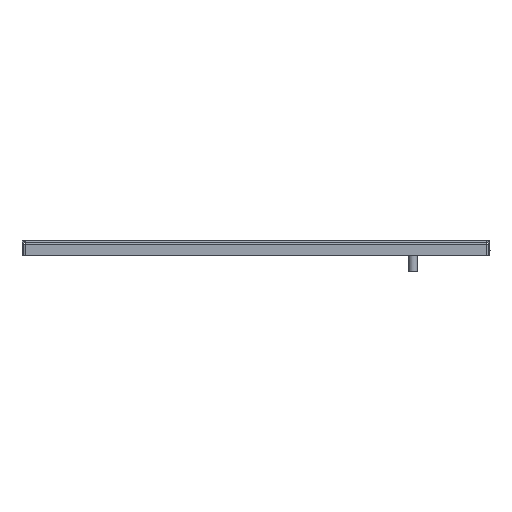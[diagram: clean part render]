
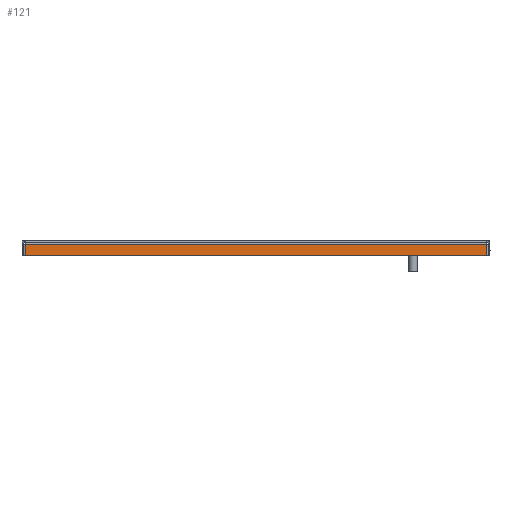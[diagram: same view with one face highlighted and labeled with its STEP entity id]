
A CAD part, left-side view. The second image highlights one B-rep face of the part: STEP entity #121.
In plain terms, the highlighted planar face has unit normal (-1, 0, 0).
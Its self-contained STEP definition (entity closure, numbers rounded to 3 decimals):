
#121=ADVANCED_FACE('',(#3121),#3123,.F.);
#3121=FACE_BOUND('',#3122,.T.);
#3122=EDGE_LOOP('',(#15742,#15743,#15744,#15745));
#3123=PLANE('',#3124);
#3124=AXIS2_PLACEMENT_3D('',#3125,#3126,#3127);
#3125=CARTESIAN_POINT('',(-593.2,0.,0.));
#3126=DIRECTION('',(1.,0.,0.));
#3127=DIRECTION('',(0.,0.,-1.));
#15742=ORIENTED_EDGE('',*,*,#23907,.F.);
#15743=ORIENTED_EDGE('',*,*,#23909,.F.);
#15744=ORIENTED_EDGE('',*,*,#23910,.F.);
#15745=ORIENTED_EDGE('',*,*,#23911,.F.);
#23907=EDGE_CURVE('',#30641,#30634,#30645,.T.);
#23909=EDGE_CURVE('',#30647,#30641,#30648,.T.);
#23910=EDGE_CURVE('',#30649,#30647,#30650,.T.);
#23911=EDGE_CURVE('',#30634,#30649,#30651,.T.);
#30634=VERTEX_POINT('',#42915);
#30641=VERTEX_POINT('',#42935);
#30645=LINE('',#42946,#42947);
#30647=VERTEX_POINT('',#42952);
#30648=LINE('',#42953,#42954);
#30649=VERTEX_POINT('',#42956);
#30650=LINE('',#42957,#42958);
#30651=LINE('',#42960,#42961);
#42915=CARTESIAN_POINT('',(-593.2,-220.3,-3.2));
#42935=CARTESIAN_POINT('',(-593.2,220.3,-3.2));
#42946=CARTESIAN_POINT('',(-593.2,220.3,-3.2));
#42947=VECTOR('',#42948,1.);
#42948=DIRECTION('',(0.,-1.,0.));
#42952=CARTESIAN_POINT('',(-593.2,220.3,-14.));
#42953=CARTESIAN_POINT('',(-593.2,220.3,-14.));
#42954=VECTOR('',#42955,1.);
#42955=DIRECTION('',(0.,0.,1.));
#42956=CARTESIAN_POINT('',(-593.2,-220.3,-14.));
#42957=CARTESIAN_POINT('',(-593.2,-220.3,-14.));
#42958=VECTOR('',#42959,1.);
#42959=DIRECTION('',(0.,1.,0.));
#42960=CARTESIAN_POINT('',(-593.2,-220.3,-3.2));
#42961=VECTOR('',#42962,1.);
#42962=DIRECTION('',(0.,0.,-1.));
